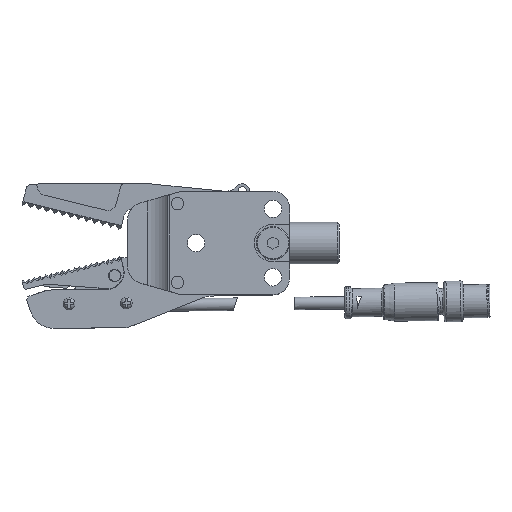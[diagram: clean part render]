
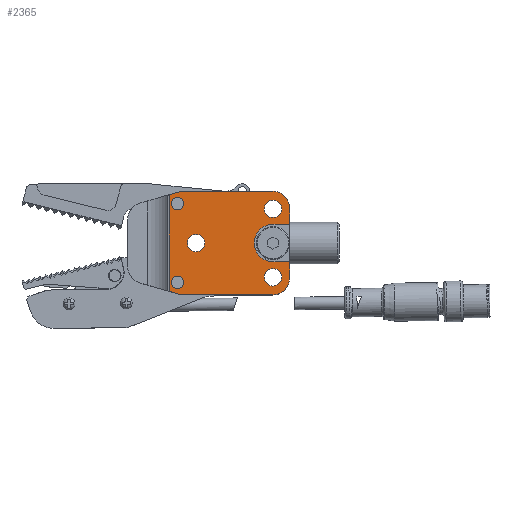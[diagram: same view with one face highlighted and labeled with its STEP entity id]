
A CAD part, top view. The second image highlights one B-rep face of the part: STEP entity #2365.
In plain terms, the highlighted planar face has unit normal (0, 0, 1).
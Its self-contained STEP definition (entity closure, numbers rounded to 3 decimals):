
#2365=ADVANCED_FACE('',(#4551,#4552,#4553,#4554,#4555,#4556),#4557,.T.);
#4551=FACE_BOUND('',#6712,.T.);
#4552=FACE_BOUND('',#6713,.T.);
#4553=FACE_BOUND('',#6714,.T.);
#4554=FACE_BOUND('',#6715,.T.);
#4555=FACE_BOUND('',#6716,.T.);
#4556=FACE_OUTER_BOUND('',#6717,.T.);
#4557=PLANE('',#6718);
#6712=EDGE_LOOP('',(#11982));
#6713=EDGE_LOOP('',(#11983));
#6714=EDGE_LOOP('',(#11984));
#6715=EDGE_LOOP('',(#11985));
#6716=EDGE_LOOP('',(#11986));
#6717=EDGE_LOOP('',(#11987,#11988,#11989,#11990,#11991,#11992,#11993,#11994,#11995,#11996,#11997,#11998));
#6718=AXIS2_PLACEMENT_3D('',#11999,#12000,#12001);
#11982=ORIENTED_EDGE('',*,*,#14162,.F.);
#11983=ORIENTED_EDGE('',*,*,#14165,.F.);
#11984=ORIENTED_EDGE('',*,*,#14168,.F.);
#11985=ORIENTED_EDGE('',*,*,#14174,.F.);
#11986=ORIENTED_EDGE('',*,*,#14176,.F.);
#11987=ORIENTED_EDGE('',*,*,#14273,.F.);
#11988=ORIENTED_EDGE('',*,*,#14274,.T.);
#11989=ORIENTED_EDGE('',*,*,#14275,.F.);
#11990=ORIENTED_EDGE('',*,*,#14276,.T.);
#11991=ORIENTED_EDGE('',*,*,#14277,.T.);
#11992=ORIENTED_EDGE('',*,*,#14262,.F.);
#11993=ORIENTED_EDGE('',*,*,#14188,.F.);
#11994=ORIENTED_EDGE('',*,*,#14192,.F.);
#11995=ORIENTED_EDGE('',*,*,#14184,.F.);
#11996=ORIENTED_EDGE('',*,*,#14261,.F.);
#11997=ORIENTED_EDGE('',*,*,#14278,.T.);
#11998=ORIENTED_EDGE('',*,*,#14279,.T.);
#11999=CARTESIAN_POINT('',(0.0,0.0,7.5));
#12000=DIRECTION('',(0.0,0.0,1.0));
#12001=DIRECTION('',(1.0,0.0,0.0));
#14162=EDGE_CURVE('',#16977,#16977,#16978,.T.);
#14165=EDGE_CURVE('',#16982,#16982,#16983,.T.);
#14168=EDGE_CURVE('',#16987,#16987,#16988,.T.);
#14174=EDGE_CURVE('',#16996,#16996,#16997,.T.);
#14176=EDGE_CURVE('',#16999,#16999,#17000,.T.);
#14184=EDGE_CURVE('',#17012,#17013,#17014,.T.);
#14188=EDGE_CURVE('',#17018,#17019,#17020,.T.);
#14192=EDGE_CURVE('',#17013,#17018,#17024,.T.);
#14261=EDGE_CURVE('',#17139,#17012,#17141,.T.);
#14262=EDGE_CURVE('',#17019,#17142,#17143,.T.);
#14273=EDGE_CURVE('',#17160,#17161,#17162,.T.);
#14274=EDGE_CURVE('',#17160,#17163,#17164,.F.);
#14275=EDGE_CURVE('',#17165,#17163,#17166,.T.);
#14276=EDGE_CURVE('',#17165,#17167,#17168,.T.);
#14277=EDGE_CURVE('',#17167,#17142,#17169,.T.);
#14278=EDGE_CURVE('',#17139,#17170,#17171,.T.);
#14279=EDGE_CURVE('',#17170,#17161,#17172,.T.);
#16977=VERTEX_POINT('',#21002);
#16978=CIRCLE('',#21003,2.1);
#16982=VERTEX_POINT('',#21007);
#16983=CIRCLE('',#21008,2.1);
#16987=VERTEX_POINT('',#21012);
#16988=CIRCLE('',#21013,2.1);
#16996=VERTEX_POINT('',#21021);
#16997=CIRCLE('',#21022,1.525);
#16999=VERTEX_POINT('',#21024);
#17000=CIRCLE('',#21025,1.525);
#17012=VERTEX_POINT('',#21041);
#17013=VERTEX_POINT('',#21042);
#17014=LINE('',#21043,#21044);
#17018=VERTEX_POINT('',#21050);
#17019=VERTEX_POINT('',#21051);
#17020=LINE('',#21052,#21053);
#17024=CIRCLE('',#21059,4.5);
#17139=VERTEX_POINT('',#21211);
#17141=LINE('',#21214,#21215);
#17142=VERTEX_POINT('',#21216);
#17143=LINE('',#21217,#21218);
#17160=VERTEX_POINT('',#21241);
#17161=VERTEX_POINT('',#21242);
#17162=LINE('',#21243,#21244);
#17163=VERTEX_POINT('',#21245);
#17164=LINE('',#21246,#21247);
#17165=VERTEX_POINT('',#21248);
#17166=LINE('',#21249,#21250);
#17167=VERTEX_POINT('',#21251);
#17168=LINE('',#21252,#21253);
#17169=CIRCLE('',#21254,4.0);
#17170=VERTEX_POINT('',#21255);
#17171=CIRCLE('',#21256,4.0);
#17172=LINE('',#21257,#21258);
#21002=CARTESIAN_POINT('',(12.1,8.25,7.5));
#21003=AXIS2_PLACEMENT_3D('',#23137,#23138,#23139);
#21007=CARTESIAN_POINT('',(12.1,-8.25,7.5));
#21008=AXIS2_PLACEMENT_3D('',#23143,#23144,#23145);
#21012=CARTESIAN_POINT('',(-6.4,0.,7.5));
#21013=AXIS2_PLACEMENT_3D('',#23149,#23150,#23151);
#21021=CARTESIAN_POINT('',(-11.475,-9.5,7.5));
#21022=AXIS2_PLACEMENT_3D('',#23158,#23159,#23160);
#21024=CARTESIAN_POINT('',(-11.475,9.5,7.5));
#21025=AXIS2_PLACEMENT_3D('',#23161,#23162,#23163);
#21041=CARTESIAN_POINT('',(14.0,4.5,7.5));
#21042=CARTESIAN_POINT('',(10.0,4.5,7.5));
#21043=CARTESIAN_POINT('',(10.0,4.5,7.5));
#21044=VECTOR('',#23171,1.0);
#21050=CARTESIAN_POINT('',(10.0,-4.5,7.5));
#21051=CARTESIAN_POINT('',(14.0,-4.5,7.5));
#21052=CARTESIAN_POINT('',(10.0,-4.5,7.5));
#21053=VECTOR('',#23174,1.0);
#21059=AXIS2_PLACEMENT_3D('',#23177,#23178,#23179);
#21211=CARTESIAN_POINT('',(14.0,8.5,7.5));
#21214=CARTESIAN_POINT('',(14.0,12.5,7.5));
#21215=VECTOR('',#23272,1.0);
#21216=CARTESIAN_POINT('',(14.0,-8.5,7.5));
#21217=CARTESIAN_POINT('',(14.0,12.5,7.5));
#21218=VECTOR('',#23273,1.0);
#21241=CARTESIAN_POINT('',(-14.997,11.641,7.5));
#21242=CARTESIAN_POINT('',(-12.0,12.5,7.5));
#21243=CARTESIAN_POINT('',(-26.0,8.486,7.5));
#21244=VECTOR('',#23286,1.0);
#21245=CARTESIAN_POINT('',(-14.997,-11.641,7.5));
#21246=CARTESIAN_POINT('',(-14.997,-11.57,7.5));
#21247=VECTOR('',#23287,1.0);
#21248=CARTESIAN_POINT('',(-12.0,-12.5,7.5));
#21249=CARTESIAN_POINT('',(-26.0,-8.486,7.5));
#21250=VECTOR('',#23288,1.0);
#21251=CARTESIAN_POINT('',(10.0,-12.5,7.5));
#21252=CARTESIAN_POINT('',(-26.0,-12.5,7.5));
#21253=VECTOR('',#23289,1.0);
#21254=AXIS2_PLACEMENT_3D('',#23290,#23291,#23292);
#21255=CARTESIAN_POINT('',(10.0,12.5,7.5));
#21256=AXIS2_PLACEMENT_3D('',#23293,#23294,#23295);
#21257=CARTESIAN_POINT('',(-26.0,12.5,7.5));
#21258=VECTOR('',#23296,1.0);
#23137=CARTESIAN_POINT('',(10.0,8.25,7.5));
#23138=DIRECTION('',(0.0,0.0,1.0));
#23139=DIRECTION('',(1.0,0.0,0.0));
#23143=CARTESIAN_POINT('',(10.0,-8.25,7.5));
#23144=DIRECTION('',(0.0,0.0,1.0));
#23145=DIRECTION('',(1.0,0.0,0.0));
#23149=CARTESIAN_POINT('',(-8.5,0.,7.5));
#23150=DIRECTION('',(0.0,0.0,1.0));
#23151=DIRECTION('',(1.0,0.0,0.0));
#23158=CARTESIAN_POINT('',(-13.0,-9.5,7.5));
#23159=DIRECTION('',(0.0,0.0,1.0));
#23160=DIRECTION('',(1.0,0.0,0.0));
#23161=CARTESIAN_POINT('',(-13.0,9.5,7.5));
#23162=DIRECTION('',(0.0,0.0,1.0));
#23163=DIRECTION('',(1.0,0.0,0.0));
#23171=DIRECTION('',(-1.0,0.0,0.0));
#23174=DIRECTION('',(1.0,0.0,0.0));
#23177=CARTESIAN_POINT('',(10.0,0.0,7.5));
#23178=DIRECTION('',(0.0,0.0,1.0));
#23179=DIRECTION('',(1.0,0.0,0.0));
#23272=DIRECTION('',(0.,-1.0,0.));
#23273=DIRECTION('',(0.,-1.0,0.));
#23286=DIRECTION('',(0.961,0.276,0.0));
#23287=DIRECTION('',(0.0,1.0,0.0));
#23288=DIRECTION('',(-0.961,0.276,0.0));
#23289=DIRECTION('',(1.0,0.0,0.0));
#23290=CARTESIAN_POINT('',(10.0,-8.5,7.5));
#23291=DIRECTION('',(0.0,0.0,1.0));
#23292=DIRECTION('',(1.0,0.0,0.0));
#23293=CARTESIAN_POINT('',(10.0,8.5,7.5));
#23294=DIRECTION('',(0.0,0.0,1.0));
#23295=DIRECTION('',(1.0,0.0,0.0));
#23296=DIRECTION('',(-1.0,0.0,0.0));
